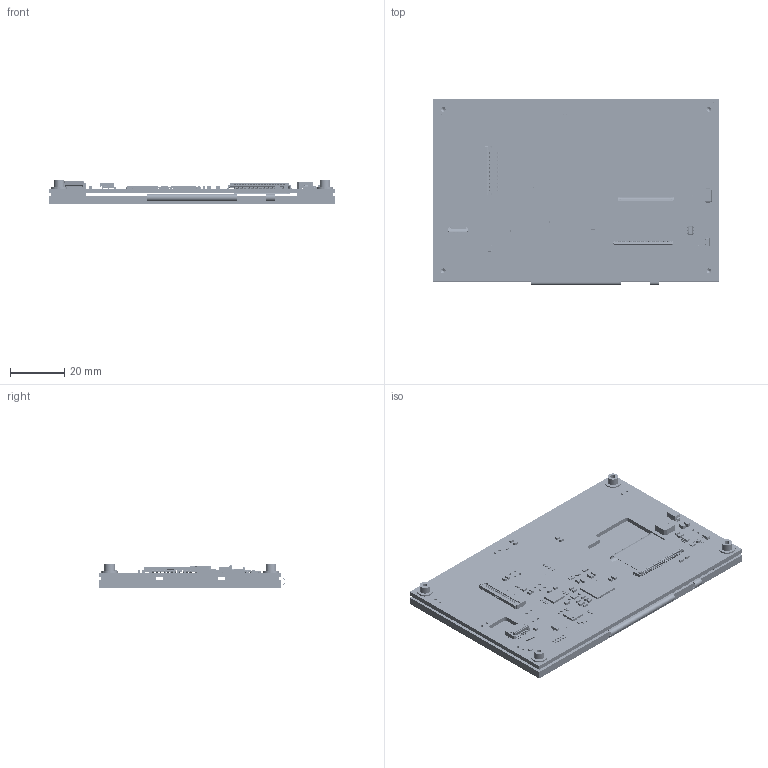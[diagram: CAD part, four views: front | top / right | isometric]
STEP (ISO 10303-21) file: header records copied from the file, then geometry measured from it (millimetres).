
FILE_DESCRIPTION (( 'STEP AP214' ), '1' );
FILE_NAME ('CFA800480E0-043SN.STEP', '2025-12-10T22:13:27', ( '' ), ( '' ), 'SwSTEP 2.0', 'SolidWorks 2021', '' );
FILE_SCHEMA (( 'AUTOMOTIVE_DESIGN' ));
Length unit declared in the file: millimetre
Products named in the file (1): CFA800480E0-043SN
Bounding box: 105.5 x 68.49 x 8.55 mm (x, y, z)
Surface area: 39038.8 mm2 (no closed solid volume)
Topology: 0 solids, 602 shells, 17211 faces, 47850 edges, 31124 vertices
Faces by surface type: plane 11163, cylinder 4481, bspline 1286, sphere 265, torus 8, cone 8
Entity records: 754489 total; most frequent: CARTESIAN_POINT 135234, ORIENTED_EDGE 95630, DIRECTION 76085, EDGE_CURVE 47818, VECTOR 34085, LINE 34085, VERTEX_POINT 31124, AXIS2_PLACEMENT_3D 21000
